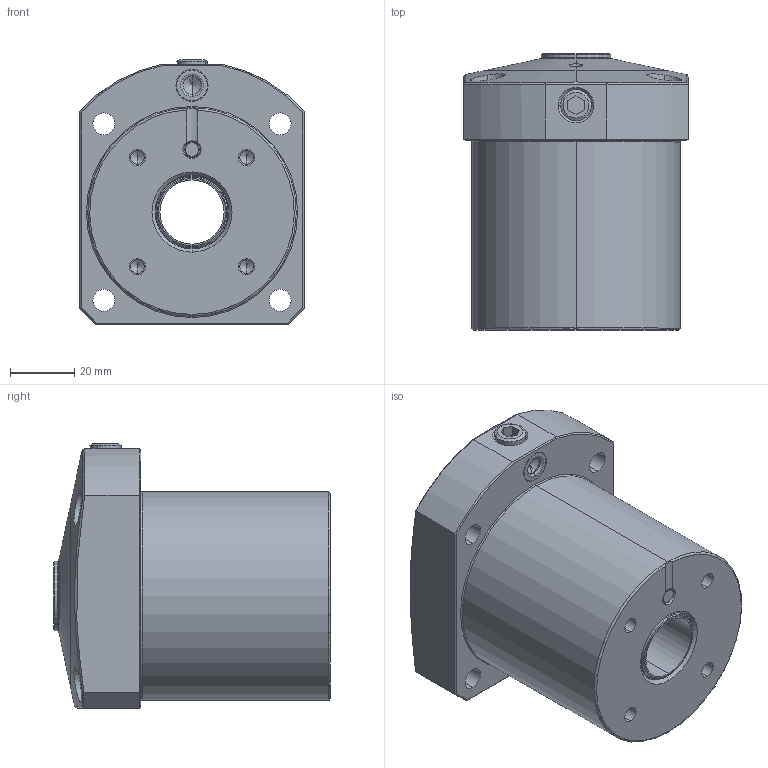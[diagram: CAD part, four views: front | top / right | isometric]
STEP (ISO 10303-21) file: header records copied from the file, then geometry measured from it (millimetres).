
FILE_DESCRIPTION(/* description */ (''),/* implementation_level */ '2;1');
FILE_NAME(/* name */ 'FNE65-C.stp',/* time_stamp */ '2025-10-27T14:07:30+08:00',/* author */ (''),/* organization */ (''),/* preprocessor_version */ 'ST-DEVELOPER v16.7',/* originating_system */ 'SIEMENS PLM Software NX 12.0',/* authorisation */ '');
FILE_SCHEMA (('AUTOMOTIVE_DESIGN { 1 0 10303 214 3 1 1 1 }'));
Length unit declared in the file: millimetre
Products named in the file (5): FNE65-04; FNE65-01; FNE65-02; FNE65-03; WNA4003-G-D_step
Assembly tree (4 placements, depth 2):
  WNA4003-G-D_step
    FNE65-03
    FNE65-02
    FNE65-01
    FNE65-04
Bounding box: 70 x 86.1 x 82.5 mm (x, y, z)
Volume: 280525.3 mm3; surface area: 36882.5 mm2
Topology: 4 solids, 4 shells, 187 faces, 414 edges, 245 vertices
Faces by surface type: cylinder 65, cone 50, plane 44, torus 22, bspline 6
Entity records: 6304 total; most frequent: CARTESIAN_POINT 2041, DIRECTION 928, ORIENTED_EDGE 808, EDGE_CURVE 404, AXIS2_PLACEMENT_3D 386, VERTEX_POINT 245, EDGE_LOOP 219, CIRCLE 200
